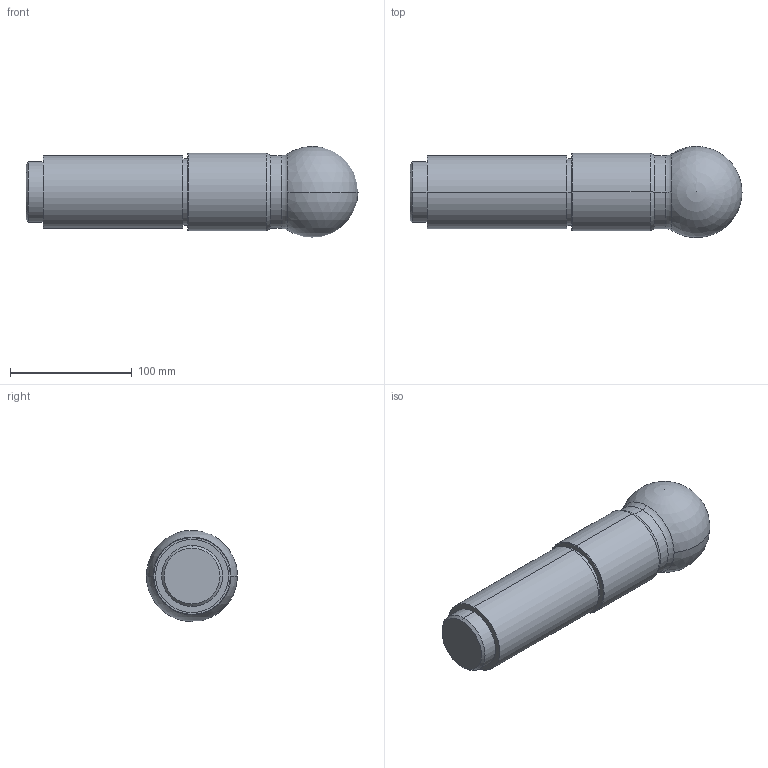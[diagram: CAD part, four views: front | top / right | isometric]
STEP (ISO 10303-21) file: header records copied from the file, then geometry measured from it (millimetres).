
FILE_DESCRIPTION (( 'STEP AP214' ), '1' );
FILE_NAME ('Ball Pin1.STEP', '2026-05-12T05:23:06', ( '' ), ( '' ), 'SwSTEP 2.0', 'SolidWorks 2023', '' );
FILE_SCHEMA (( 'AUTOMOTIVE_DESIGN' ));
Length unit declared in the file: millimetre
Products named in the file (1): Ball Pin1
Bounding box: 273 x 74.89 x 75 mm (x, y, z)
Volume: 811910.5 mm3; surface area: 58561.9 mm2
Topology: 1 solids, 1 shells, 24 faces, 53 edges, 32 vertices
Faces by surface type: cylinder 10, cone 6, plane 4, torus 2, sphere 2
Entity records: 655 total; most frequent: DIRECTION 130, CARTESIAN_POINT 102, ORIENTED_EDGE 96, AXIS2_PLACEMENT_3D 57, EDGE_CURVE 48, CIRCLE 32, VERTEX_POINT 29, EDGE_LOOP 27
